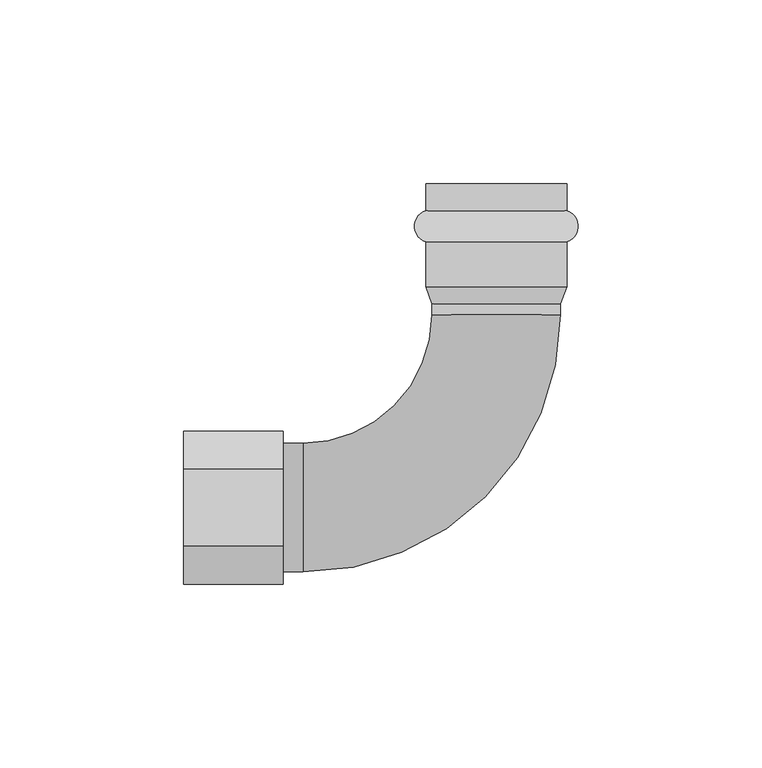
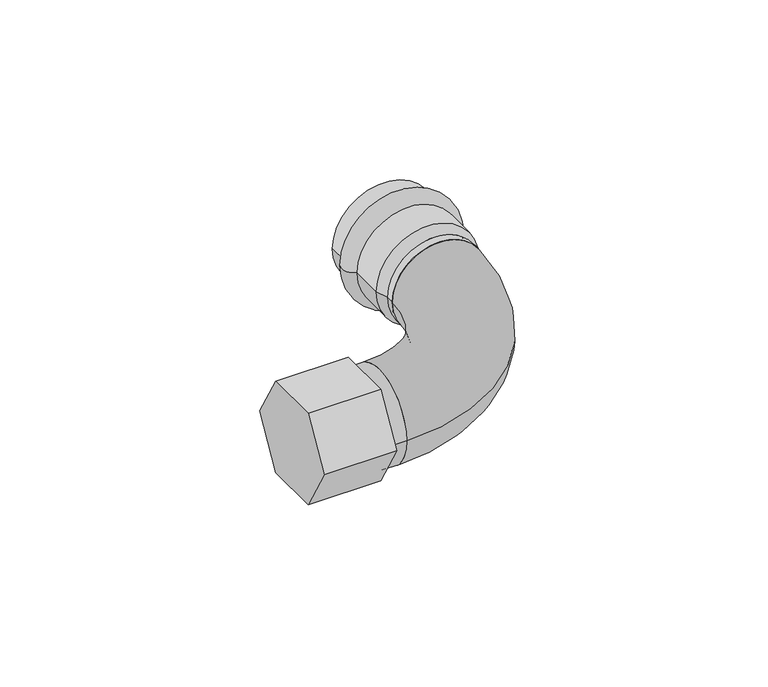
"""IFC4 building model written with IfcOpenShell, lengths in millimetres: valve geometry, Отвод_90°_с_переходом_на_внутреннюю_или_наружнюю_резьбу : VTi.956.I."""

from ifc_helpers import new_model, si_unit, point, frame, origin, place, context, project, spatial, polyline, circle_curve, ellipse_curve, trimmed, outline, extrude, source, transform, mapped, element, save
from ifc_brep_helpers import plane_surface, cylinder_surface, revolved_surface, advanced_brep


def valve_f418cc26(model_context):
    return source(origin(), model_context, "Body", "SolidModel", [
        extrude(outline(polyline([(-10.3923048, 18.0), (10.3923048, 18.0), (20.7846097, 0.0), (10.3923048, -18.0), (-10.3923048, -18.0), (-20.7846097, 0.0), (-10.3923048, 18.0)])), frame((-85.0, 0.0, 0.0), z_axis=(1.0, 0.0, 0.0), x_axis=(0.0, 1.0, 0.0)), (0.0, 0.0, 1.0), 27.0),
        advanced_brep(
        [(19.15, 80.74, 0.0), (-19.15, 80.74, 0.0), (-19.15, 88.0, 0.0), (19.15, 88.0, 0.0), (19.15, 72.26, 0.0), (-19.15, 72.26, 0.0), (19.15, 60.0, 0.0), (-19.15, 60.0, 0.0), (17.5, 55.47, 0.0), (-17.5, 55.47, 0.0), (17.5, 52.5, 0.0), (-17.5, 52.5, 0.0), (0.0, 52.5, 0.0), (0.0, 88.0, 0.0)],
        [
            (0, 1, circle_curve(frame((0.0, 80.74, 0.0), z_axis=(0.0, 1.0, 0.0), x_axis=(-1.0, 0.0, 0.0)), 19.15)),
            (1, 2),
            (2, 3, circle_curve(frame((0.0, 88.0, 0.0), z_axis=(0.0, -1.0, 0.0), x_axis=(-1.0, 0.0, 0.0)), 19.15)),
            (3, 0),
            (1, 0, circle_curve(frame((0.0, 80.74, 0.0), z_axis=(0.0, 1.0, 0.0), x_axis=(-1.0, 0.0, 0.0)), 19.15)),
            (3, 2, circle_curve(frame((0.0, 88.0, 0.0), z_axis=(0.0, -1.0, 0.0), x_axis=(-1.0, 0.0, 0.0)), 19.15)),
            (4, 5, circle_curve(frame((0.0, 72.26, 0.0), z_axis=(0.0, 1.0, 0.0), x_axis=(-1.0, 0.0, 0.0)), 19.15)),
            (5, 1, circle_curve(frame((-17.8504491, 76.5, 0.0), z_axis=(0.0, 0.0, -1.0), x_axis=(0.0, 1.0, 0.0)), 4.4346852)),
            (0, 4, circle_curve(frame((17.8504491, 76.5, 0.0), z_axis=(0.0, 0.0, -1.0), x_axis=(0.0, 1.0, 0.0)), 4.4346852)),
            (5, 4, circle_curve(frame((0.0, 72.26, 0.0), z_axis=(0.0, 1.0, 0.0), x_axis=(-1.0, 0.0, 0.0)), 19.15)),
            (6, 7, circle_curve(frame((0.0, 60.0, 0.0), z_axis=(0.0, 1.0, 0.0), x_axis=(-1.0, 0.0, 0.0)), 19.15)),
            (7, 5),
            (4, 6),
            (7, 6, circle_curve(frame((0.0, 60.0, 0.0), z_axis=(0.0, 1.0, 0.0), x_axis=(-1.0, 0.0, 0.0)), 19.15)),
            (8, 9, circle_curve(frame((0.0, 55.47, 0.0), z_axis=(0.0, 1.0, 0.0), x_axis=(-1.0, 0.0, 0.0)), 17.5)),
            (9, 7),
            (6, 8),
            (9, 8, circle_curve(frame((0.0, 55.47, 0.0), z_axis=(0.0, 1.0, 0.0), x_axis=(-1.0, 0.0, 0.0)), 17.5)),
            (10, 11, circle_curve(frame((0.0, 52.5, 0.0), z_axis=(0.0, 1.0, 0.0), x_axis=(-1.0, 0.0, 0.0)), 17.5)),
            (11, 9),
            (8, 10),
            (11, 10, circle_curve(frame((0.0, 52.5, 0.0), z_axis=(0.0, 1.0, 0.0), x_axis=(-1.0, 0.0, 0.0)), 17.5)),
            (12, 11),
            (10, 12),
            (2, 13),
            (13, 3),
        ],
        [
            cylinder_surface(frame((0.0, 2088.0, 0.0), z_axis=(0.0, -1.0, 0.0), x_axis=(-1.0, 0.0, 0.0)), 19.15),
            revolved_surface(trimmed(ellipse_curve(frame((-17.8504491, 76.5, 0.0), z_axis=(0.0, 0.0, 1.0), x_axis=(0.0, 1.0, 0.0)), 4.4346852, 4.4346852), [point((-19.15, 80.74, 0.0))], [point((-19.15, 72.26, 0.0))], True, "CARTESIAN"), (0.0, 2088.0, 0.0), (0.0, -1.0, 0.0)),
            revolved_surface(polyline([(-19.15, 60.0, 0.0), (-17.5, 55.47, 0.0)]), (0.0, 2088.0, 0.0), (0.0, -1.0, 0.0)),
            cylinder_surface(frame((0.0, 2088.0, 0.0), z_axis=(0.0, -1.0, 0.0), x_axis=(-1.0, 0.0, 0.0)), 17.5),
            plane_surface(frame((0.0, 52.5, 0.0), z_axis=(0.0, -1.0, 0.0), x_axis=(-1.0, 0.0, 0.0))),
            plane_surface(frame((0.0, 88.0, 0.0), z_axis=(0.0, 1.0, 0.0), x_axis=(-1.0, 0.0, 0.0))),
        ],
        [
            (0, [[1, 2, 3, 4]]),
            (0, [[5, -4, 6, -2]]),
            (1, [[7, 8, -1, 9]]),
            (1, [[10, -9, -5, -8]]),
            (0, [[11, 12, -7, 13]]),
            (0, [[14, -13, -10, -12]]),
            (2, [[15, 16, -11, 17]]),
            (2, [[18, -17, -14, -16]]),
            (3, [[19, 20, -15, 21]]),
            (3, [[22, -21, -18, -20]]),
            (4, [[23, -19, 24]]),
            (4, [[-24, -22, -23]]),
            (5, [[-3, 25, 26]]),
            (5, [[-6, -26, -25]]),
        ],
    ),
        advanced_brep(
        [(-52.5, -17.5, 0.0), (-52.5, 17.5, 0.0), (-52.5, 0.0, 0.0), (-58.0, -17.5, 0.0), (-58.0, 17.5, 0.0), (-58.0, 0.0, 0.0)],
        [
            (0, 1, circle_curve(frame((-52.5, 0.0, 0.0), z_axis=(1.0, 0.0, 0.0), x_axis=(0.0, 1.0, 0.0)), 17.5)),
            (1, 2),
            (2, 0),
            (1, 0, circle_curve(frame((-52.5, 0.0, 0.0), z_axis=(1.0, 0.0, 0.0), x_axis=(0.0, 1.0, 0.0)), 17.5)),
            (3, 4, circle_curve(frame((-58.0, 0.0, 0.0), z_axis=(1.0, 0.0, 0.0), x_axis=(0.0, 1.0, 0.0)), 17.5)),
            (4, 1),
            (0, 3),
            (4, 3, circle_curve(frame((-58.0, 0.0, 0.0), z_axis=(1.0, 0.0, 0.0), x_axis=(0.0, 1.0, 0.0)), 17.5)),
            (5, 4),
            (3, 5),
        ],
        [
            plane_surface(frame((-52.5, 0.0, 0.0), z_axis=(1.0, 0.0, 0.0), x_axis=(0.0, 1.0, 0.0))),
            cylinder_surface(frame((2000.0, 0.0, 0.0), z_axis=(-1.0, 0.0, 0.0), x_axis=(0.0, 1.0, 0.0)), 17.5),
            plane_surface(frame((-58.0, 0.0, 0.0), z_axis=(-1.0, 0.0, 0.0), x_axis=(0.0, 1.0, 0.0))),
        ],
        [
            (0, [[1, 2, 3]]),
            (0, [[4, -3, -2]]),
            (1, [[5, 6, -1, 7]]),
            (1, [[8, -7, -4, -6]]),
            (2, [[9, -5, 10]]),
            (2, [[-10, -8, -9]]),
        ],
    ),
        advanced_brep(
        [(-17.5, 52.5, 0.0), (17.5, 52.5, 0.0), (-52.5, 17.5, 0.0), (-52.5, -17.5, 0.0)],
        [
            (0, 1, circle_curve(frame((0.0, 52.5, 0.0), z_axis=(0.0, 1.0, 0.0), x_axis=(1.0, 0.0, 0.0)), 17.5)),
            (1, 0, circle_curve(frame((0.0, 52.5, 0.0), z_axis=(0.0, 1.0, 0.0), x_axis=(1.0, 0.0, 0.0)), 17.5)),
            (2, 3, circle_curve(frame((-52.5, 0.0, 0.0), z_axis=(-1.0, 0.0, 0.0), x_axis=(0.0, -1.0, 0.0)), 17.5)),
            (3, 2, circle_curve(frame((-52.5, 0.0, 0.0), z_axis=(-1.0, 0.0, 0.0), x_axis=(0.0, -1.0, 0.0)), 17.5)),
            (3, 1, circle_curve(frame((-52.5, 52.5, 0.0), z_axis=(0.0, 0.0, 1.0), x_axis=(1.0, 0.0, 0.0)), 70.0)),
            (0, 2, circle_curve(frame((-52.5, 52.5, 0.0), z_axis=(0.0, 0.0, -1.0), x_axis=(1.0, 0.0, 0.0)), 35.0)),
        ],
        [
            plane_surface(frame((0.0, 52.5, 0.0), z_axis=(0.0, 1.0, 0.0), x_axis=(0.0, 0.0, 1.0))),
            plane_surface(frame((-52.5, 0.0, 0.0), z_axis=(-1.0, 0.0, 0.0), x_axis=(0.0, 0.0, 1.0))),
            revolved_surface(trimmed(ellipse_curve(frame((0.0, 52.5, 0.0), z_axis=(0.0, 1.0, 0.0), x_axis=(1.0, 0.0, 0.0)), 17.5, 17.5), [point((-17.5, 52.5, 0.0))], [point((17.5, 52.5, 0.0))], True, "CARTESIAN"), (-52.5, 52.5, 0.0), (0.0, 0.0, -1.0)),
            revolved_surface(trimmed(ellipse_curve(frame((0.0, 52.5, 0.0), z_axis=(0.0, 1.0, 0.0), x_axis=(1.0, 0.0, 0.0)), 17.5, 17.5), [point((17.5, 52.5, 0.0))], [point((-17.5, 52.5, 0.0))], True, "CARTESIAN"), (-52.5, 52.5, 0.0), (0.0, 0.0, -1.0)),
        ],
        [
            (0, [[1, 2]]),
            (1, [[3, 4]]),
            (2, [[5, -1, 6, -4]]),
            (3, [[-6, -2, -5, -3]]),
        ],
    ),
    ])


if __name__ == "__main__":
    model = new_model("IFC4")
    model_context = context("Model", 3, world=origin())
    ifc_project = project(units=[si_unit("LENGTHUNIT", "METRE", prefix="MILLI")], contexts=[model_context])
    site = spatial("IfcSite", under=ifc_project)
    building = spatial("IfcBuilding", under=site)
    placement = place(None, origin())
    valve_shape = valve_f418cc26(model_context)
    element("IfcValve", 1, ObjectType="Отвод_90°_с_переходом_на_внутреннюю_или_наружнюю_резьбу : VTi.956.I", at=placement, inside=building, context=model_context, shape_type="MappedRepresentation", body=[
        mapped(valve_shape, transform((0.0, 0.0, 0.0), x_axis=(1.0, 0.0, 0.0), y_axis=(0.0, 1.0, 0.0), z_axis=(0.0, 0.0, 1.0))),
    ])
    save(model, "model.ifc")
